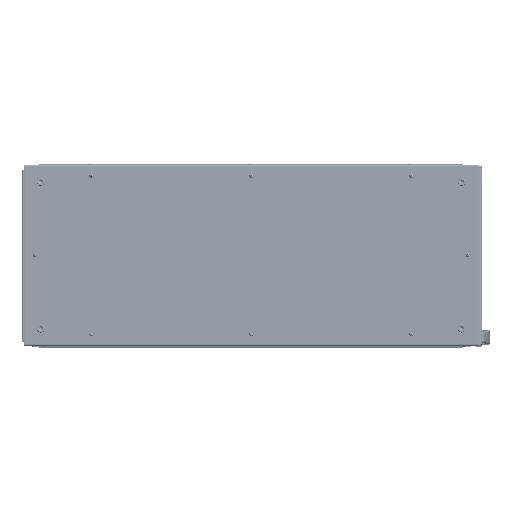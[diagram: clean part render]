
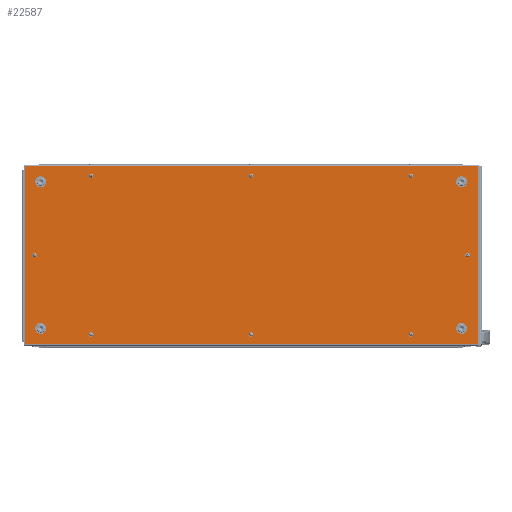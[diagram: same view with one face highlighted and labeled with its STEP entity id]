
A CAD part, top view. The second image highlights one B-rep face of the part: STEP entity #22587.
In plain terms, the highlighted planar face has unit normal (0, 0, 1).
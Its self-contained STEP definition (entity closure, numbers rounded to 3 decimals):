
#22587=ADVANCED_FACE('',(#141848,#141850,#141852,#141854,#141856,#141858,#141860,
#141862,#141864,#141866,#141868,#141870,#141872),#141874,.T.);
#141848=FACE_BOUND('',#141849,.T.);
#141849=EDGE_LOOP('',(#230978,#230979,#230980,#230981));
#141850=FACE_BOUND('',#141851,.T.);
#141851=EDGE_LOOP('',(#230982));
#141852=FACE_BOUND('',#141853,.T.);
#141853=EDGE_LOOP('',(#230983));
#141854=FACE_BOUND('',#141855,.T.);
#141855=EDGE_LOOP('',(#230984));
#141856=FACE_BOUND('',#141857,.T.);
#141857=EDGE_LOOP('',(#230985));
#141858=FACE_BOUND('',#141859,.T.);
#141859=EDGE_LOOP('',(#230986));
#141860=FACE_BOUND('',#141861,.T.);
#141861=EDGE_LOOP('',(#230987));
#141862=FACE_BOUND('',#141863,.T.);
#141863=EDGE_LOOP('',(#230988));
#141864=FACE_BOUND('',#141865,.T.);
#141865=EDGE_LOOP('',(#230989));
#141866=FACE_BOUND('',#141867,.T.);
#141867=EDGE_LOOP('',(#230990));
#141868=FACE_BOUND('',#141869,.T.);
#141869=EDGE_LOOP('',(#230991));
#141870=FACE_BOUND('',#141871,.T.);
#141871=EDGE_LOOP('',(#230992));
#141872=FACE_BOUND('',#141873,.T.);
#141873=EDGE_LOOP('',(#230993));
#141874=PLANE('',#141875);
#141875=AXIS2_PLACEMENT_3D('',#141876,#141877,#141878);
#141876=CARTESIAN_POINT('',(0.,0.,1.5));
#141877=DIRECTION('',(0.,0.,1.));
#141878=DIRECTION('',(0.,1.,0.));
#230978=ORIENTED_EDGE('',*,*,#272450,.T.);
#230979=ORIENTED_EDGE('',*,*,#272451,.T.);
#230980=ORIENTED_EDGE('',*,*,#272452,.T.);
#230981=ORIENTED_EDGE('',*,*,#272453,.T.);
#230982=ORIENTED_EDGE('',*,*,#272429,.T.);
#230983=ORIENTED_EDGE('',*,*,#272428,.T.);
#230984=ORIENTED_EDGE('',*,*,#272427,.T.);
#230985=ORIENTED_EDGE('',*,*,#272426,.T.);
#230986=ORIENTED_EDGE('',*,*,#272425,.T.);
#230987=ORIENTED_EDGE('',*,*,#272424,.T.);
#230988=ORIENTED_EDGE('',*,*,#272420,.T.);
#230989=ORIENTED_EDGE('',*,*,#272421,.T.);
#230990=ORIENTED_EDGE('',*,*,#272422,.T.);
#230991=ORIENTED_EDGE('',*,*,#272423,.T.);
#230992=ORIENTED_EDGE('',*,*,#272418,.T.);
#230993=ORIENTED_EDGE('',*,*,#272417,.T.);
#272417=EDGE_CURVE('',#334162,#334162,#334163,.F.);
#272418=EDGE_CURVE('',#334164,#334164,#334165,.F.);
#272420=EDGE_CURVE('',#334168,#334168,#334169,.F.);
#272421=EDGE_CURVE('',#334170,#334170,#334171,.F.);
#272422=EDGE_CURVE('',#334172,#334172,#334173,.F.);
#272423=EDGE_CURVE('',#334174,#334174,#334175,.F.);
#272424=EDGE_CURVE('',#334176,#334176,#334177,.F.);
#272425=EDGE_CURVE('',#334178,#334178,#334179,.F.);
#272426=EDGE_CURVE('',#334180,#334180,#334181,.F.);
#272427=EDGE_CURVE('',#334182,#334182,#334183,.F.);
#272428=EDGE_CURVE('',#334184,#334184,#334185,.F.);
#272429=EDGE_CURVE('',#334186,#334186,#334187,.F.);
#272450=EDGE_CURVE('',#334224,#334225,#334226,.T.);
#272451=EDGE_CURVE('',#334225,#334227,#334228,.T.);
#272452=EDGE_CURVE('',#334227,#334229,#334230,.T.);
#272453=EDGE_CURVE('',#334229,#334224,#334231,.T.);
#334162=VERTEX_POINT('',#474693);
#334163=CIRCLE('',#474694,3.75);
#334164=VERTEX_POINT('',#474698);
#334165=CIRCLE('',#474699,3.75);
#334168=VERTEX_POINT('',#474708);
#334169=CIRCLE('',#474709,7.);
#334170=VERTEX_POINT('',#474713);
#334171=CIRCLE('',#474714,7.);
#334172=VERTEX_POINT('',#474718);
#334173=CIRCLE('',#474719,7.);
#334174=VERTEX_POINT('',#474723);
#334175=CIRCLE('',#474724,7.);
#334176=VERTEX_POINT('',#474728);
#334177=CIRCLE('',#474729,3.75);
#334178=VERTEX_POINT('',#474733);
#334179=CIRCLE('',#474734,3.75);
#334180=VERTEX_POINT('',#474738);
#334181=CIRCLE('',#474739,3.75);
#334182=VERTEX_POINT('',#474743);
#334183=CIRCLE('',#474744,3.75);
#334184=VERTEX_POINT('',#474748);
#334185=CIRCLE('',#474749,3.75);
#334186=VERTEX_POINT('',#474753);
#334187=CIRCLE('',#474754,3.75);
#334224=VERTEX_POINT('',#474970);
#334225=VERTEX_POINT('',#474971);
#334226=LINE('',#474972,#474973);
#334227=VERTEX_POINT('',#474975);
#334228=LINE('',#474976,#474977);
#334229=VERTEX_POINT('',#474979);
#334230=LINE('',#474980,#474981);
#334231=LINE('',#474983,#474984);
#474693=CARTESIAN_POINT('',(0.,-169.75,1.5));
#474694=AXIS2_PLACEMENT_3D('',#474695,#474696,#474697);
#474695=CARTESIAN_POINT('',(0.,-173.5,1.5));
#474696=DIRECTION('',(0.,0.,1.));
#474697=DIRECTION('',(0.,1.,0.));
#474698=CARTESIAN_POINT('',(0.,177.25,1.5));
#474699=AXIS2_PLACEMENT_3D('',#474700,#474701,#474702);
#474700=CARTESIAN_POINT('',(0.,173.5,1.5));
#474701=DIRECTION('',(0.,0.,1.));
#474702=DIRECTION('',(0.,1.,0.));
#474708=CARTESIAN_POINT('',(460.5,167.5,1.5));
#474709=AXIS2_PLACEMENT_3D('',#474710,#474711,#474712);
#474710=CARTESIAN_POINT('',(460.5,160.5,1.5));
#474711=DIRECTION('',(0.,0.,1.));
#474712=DIRECTION('',(0.,1.,0.));
#474713=CARTESIAN_POINT('',(-460.5,-153.5,1.5));
#474714=AXIS2_PLACEMENT_3D('',#474715,#474716,#474717);
#474715=CARTESIAN_POINT('',(-460.5,-160.5,1.5));
#474716=DIRECTION('',(0.,0.,1.));
#474717=DIRECTION('',(0.,1.,0.));
#474718=CARTESIAN_POINT('',(-460.5,167.5,1.5));
#474719=AXIS2_PLACEMENT_3D('',#474720,#474721,#474722);
#474720=CARTESIAN_POINT('',(-460.5,160.5,1.5));
#474721=DIRECTION('',(0.,0.,1.));
#474722=DIRECTION('',(0.,1.,0.));
#474723=CARTESIAN_POINT('',(460.5,-153.5,1.5));
#474724=AXIS2_PLACEMENT_3D('',#474725,#474726,#474727);
#474725=CARTESIAN_POINT('',(460.5,-160.5,1.5));
#474726=DIRECTION('',(0.,0.,1.));
#474727=DIRECTION('',(0.,1.,0.));
#474728=CARTESIAN_POINT('',(-473.5,3.75,1.5));
#474729=AXIS2_PLACEMENT_3D('',#474730,#474731,#474732);
#474730=CARTESIAN_POINT('',(-473.5,0.,1.5));
#474731=DIRECTION('',(0.,0.,1.));
#474732=DIRECTION('',(0.,1.,0.));
#474733=CARTESIAN_POINT('',(473.5,3.75,1.5));
#474734=AXIS2_PLACEMENT_3D('',#474735,#474736,#474737);
#474735=CARTESIAN_POINT('',(473.5,0.,1.5));
#474736=DIRECTION('',(0.,0.,1.));
#474737=DIRECTION('',(0.,1.,0.));
#474738=CARTESIAN_POINT('',(-350.,-169.75,1.5));
#474739=AXIS2_PLACEMENT_3D('',#474740,#474741,#474742);
#474740=CARTESIAN_POINT('',(-350.,-173.5,1.5));
#474741=DIRECTION('',(0.,0.,1.));
#474742=DIRECTION('',(0.,1.,0.));
#474743=CARTESIAN_POINT('',(350.,177.25,1.5));
#474744=AXIS2_PLACEMENT_3D('',#474745,#474746,#474747);
#474745=CARTESIAN_POINT('',(350.,173.5,1.5));
#474746=DIRECTION('',(0.,0.,1.));
#474747=DIRECTION('',(0.,1.,0.));
#474748=CARTESIAN_POINT('',(-350.,177.25,1.5));
#474749=AXIS2_PLACEMENT_3D('',#474750,#474751,#474752);
#474750=CARTESIAN_POINT('',(-350.,173.5,1.5));
#474751=DIRECTION('',(0.,0.,1.));
#474752=DIRECTION('',(0.,1.,0.));
#474753=CARTESIAN_POINT('',(350.,-169.75,1.5));
#474754=AXIS2_PLACEMENT_3D('',#474755,#474756,#474757);
#474755=CARTESIAN_POINT('',(350.,-173.5,1.5));
#474756=DIRECTION('',(0.,0.,1.));
#474757=DIRECTION('',(0.,1.,0.));
#474970=CARTESIAN_POINT('',(495.2,195.2,1.5));
#474971=CARTESIAN_POINT('',(-495.2,195.2,1.5));
#474972=CARTESIAN_POINT('',(495.2,195.2,1.5));
#474973=VECTOR('',#474974,1.);
#474974=DIRECTION('',(-1.,0.,0.));
#474975=CARTESIAN_POINT('',(-495.2,-195.2,1.5));
#474976=CARTESIAN_POINT('',(-495.2,195.2,1.5));
#474977=VECTOR('',#474978,1.);
#474978=DIRECTION('',(0.,-1.,0.));
#474979=CARTESIAN_POINT('',(495.2,-195.2,1.5));
#474980=CARTESIAN_POINT('',(-495.2,-195.2,1.5));
#474981=VECTOR('',#474982,1.);
#474982=DIRECTION('',(1.,0.,0.));
#474983=CARTESIAN_POINT('',(495.2,-195.2,1.5));
#474984=VECTOR('',#474985,1.);
#474985=DIRECTION('',(0.,1.,0.));
